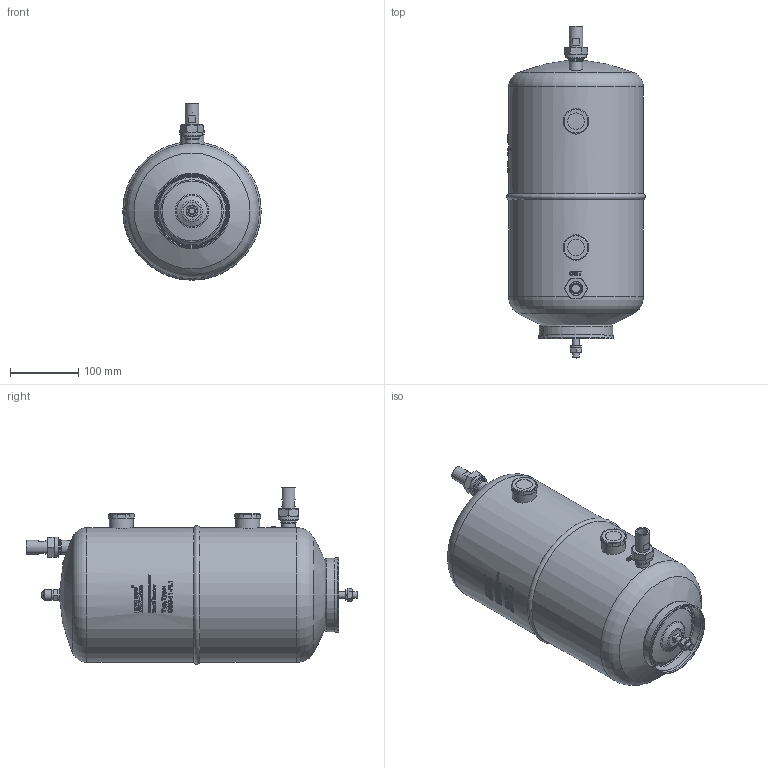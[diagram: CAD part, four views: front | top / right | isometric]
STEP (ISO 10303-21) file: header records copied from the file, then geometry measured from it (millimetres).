
FILE_DESCRIPTION(/* description */ (''),/* implementation_level */ '2;1');
FILE_NAME(/* name */ '\\SRV-DC1\Zentraledaten\Technik\ACAD\Arbeitsordner\Tran\Geräte\Flüssigkeitssammler\SGS-11-FL1\SGS-11-FL1_Rev.1.stp',/* time_stamp */ '2018-09-12T14:06:18+02:00',/* author */ ('Tran'),/* organization */ (''),/* preprocessor_version */ 'ST-DEVELOPER v16.1',/* originating_system */ 'Autodesk Inventor 2016',/* authorisation */ '');
FILE_SCHEMA (('AUTOMOTIVE_DESIGN { 1 0 10303 214 3 1 1 }'));
Length unit declared in the file: millimetre
Products named in the file (4): SGS-11-FL1_Rev.1_AG-Kunde; RN 1; LF-1-16; SGS-11-FL1_Rev.1_AG-Kunde_1
Assembly tree (5 placements, depth 2):
  SGS-11-FL1_Rev.1_AG-Kunde_1
    SGS-11-FL1_Rev.1_AG-Kunde
    RN 1  x2
    LF-1-16  x2
Bounding box: 203.31 x 487.25 x 259.1 mm (x, y, z)
Volume: 11440436.6 mm3; surface area: 322183.9 mm2
Topology: 5 solids, 5 shells, 1398 faces, 3645 edges, 2394 vertices
Faces by surface type: plane 762, bspline 389, cylinder 172, cone 57, torus 11, sphere 7
Full cylindrical faces by diameter (mm): 7.2 x1, 10 x2, 13.3 x2, 13.5 x4, 15.312 x1, 15.75 x2, 15.87 x2, 16.2 x2, 16.9 x2, 17 x1, 18.1 x2, 19.05 x2, 20 x2, 20.1 x2, 20.5 x2, 22.5 x4, 23.2 x2, 23.6 x2, 24.2 x2, 25.2 x2, 30 x2, 35 x2, 198 x2
Entity records: 50006 total; most frequent: CARTESIAN_POINT 18441, ORIENTED_EDGE 6978, DIRECTION 5584, EDGE_CURVE 3477, VERTEX_POINT 2331, AXIS2_PLACEMENT_3D 1985, LINE 1614, VECTOR 1614
